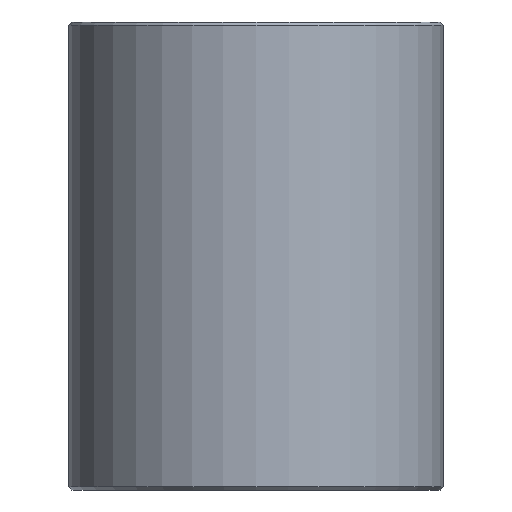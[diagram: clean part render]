
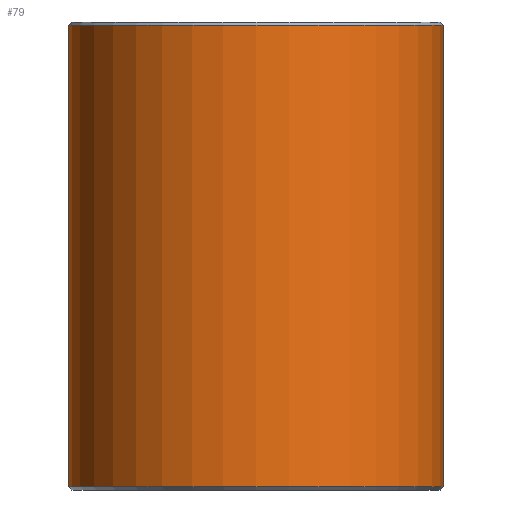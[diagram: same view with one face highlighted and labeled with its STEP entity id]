
A CAD part, front view. The second image highlights one B-rep face of the part: STEP entity #79.
In plain terms, the highlighted cylindrical face has radius 12 mm (diameter 24 mm), a full revolution.
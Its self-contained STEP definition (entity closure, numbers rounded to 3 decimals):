
#79=ADVANCED_FACE('',(#96,#97),#98,.T.);
#96=FACE_OUTER_BOUND('',#120,.T.);
#97=FACE_OUTER_BOUND('',#121,.T.);
#98=CYLINDRICAL_SURFACE('',#122,12.0);
#120=EDGE_LOOP('',(#152));
#121=EDGE_LOOP('',(#153));
#122=AXIS2_PLACEMENT_3D('',#154,#155,#156);
#152=ORIENTED_EDGE('',*,*,#178,.T.);
#153=ORIENTED_EDGE('',*,*,#177,.T.);
#154=CARTESIAN_POINT('',(0.,0.0,30.0));
#155=DIRECTION('',(0.0,0.0,-1.0));
#156=DIRECTION('',(-1.0,0.0,0.0));
#177=EDGE_CURVE('',#190,#190,#191,.T.);
#178=EDGE_CURVE('',#192,#192,#193,.F.);
#190=VERTEX_POINT('',#206);
#191=CIRCLE('',#207,12.0);
#192=VERTEX_POINT('',#208);
#193=CIRCLE('',#209,12.0);
#206=CARTESIAN_POINT('',(12.0,0.0,0.2));
#207=AXIS2_PLACEMENT_3D('',#227,#228,#229);
#208=CARTESIAN_POINT('',(12.0,0.,29.8));
#209=AXIS2_PLACEMENT_3D('',#230,#231,#232);
#227=CARTESIAN_POINT('',(0.,0.0,0.2));
#228=DIRECTION('',(0.0,0.0,1.0));
#229=DIRECTION('',(1.0,0.0,0.0));
#230=CARTESIAN_POINT('',(0.,0.0,29.8));
#231=DIRECTION('',(0.0,0.0,1.0));
#232=DIRECTION('',(1.0,0.0,0.0));
